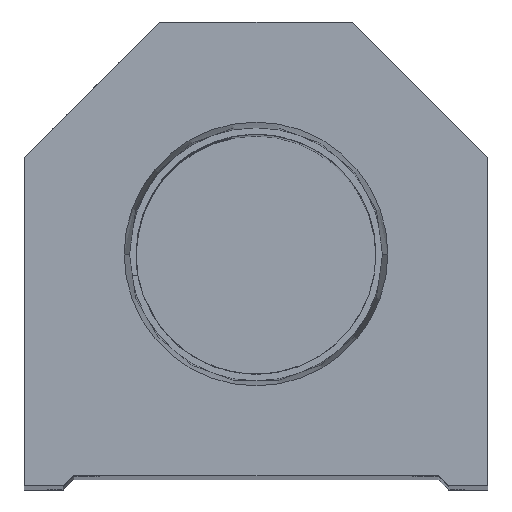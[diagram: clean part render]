
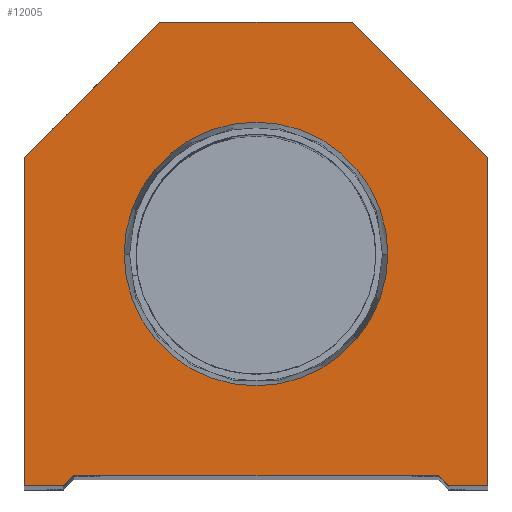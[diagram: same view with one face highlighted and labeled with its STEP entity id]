
A CAD part, top view. The second image highlights one B-rep face of the part: STEP entity #12005.
In plain terms, the highlighted planar face has unit normal (0, 0, 1).
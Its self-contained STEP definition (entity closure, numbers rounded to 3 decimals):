
#127 = VECTOR ( 'NONE', #19465, 1000. ) ;
#153 = AXIS2_PLACEMENT_3D ( 'NONE', #2557, #21612, #21268 ) ;
#337 = ORIENTED_EDGE ( 'NONE', *, *, #21010, .T. ) ;
#887 = LINE ( 'NONE', #14735, #4038 ) ;
#1731 = ORIENTED_EDGE ( 'NONE', *, *, #3122, .T. ) ;
#1844 = CARTESIAN_POINT ( 'NONE',  ( -9.25, 9.25, 0. ) ) ;
#2147 = EDGE_LOOP ( 'NONE', ( #10570, #5123, #5608, #22274, #337, #22479, #14865, #14385, #13648, #1731 ) ) ;
#2238 = DIRECTION ( 'NONE',  ( 0., 1., 0. ) ) ;
#2557 = CARTESIAN_POINT ( 'NONE',  ( 0., 22.25, 0. ) ) ;
#2828 = VERTEX_POINT ( 'NONE', #9703 ) ;
#2958 = EDGE_CURVE ( 'NONE', #9951, #19444, #7305, .T. ) ;
#3122 = EDGE_CURVE ( 'NONE', #10716, #21188, #4572, .T. ) ;
#3238 = EDGE_CURVE ( 'NONE', #4306, #22285, #887, .T. ) ;
#3522 = EDGE_LOOP ( 'NONE', ( #4177, #22457 ) ) ;
#4038 = VECTOR ( 'NONE', #7949, 1000. ) ;
#4177 = ORIENTED_EDGE ( 'NONE', *, *, #12944, .F. ) ;
#4306 = VERTEX_POINT ( 'NONE', #5188 ) ;
#4433 = CARTESIAN_POINT ( 'NONE',  ( -22.25, 31.5, 0. ) ) ;
#4572 = LINE ( 'NONE', #11137, #17413 ) ;
#4917 = DIRECTION ( 'NONE',  ( 0., 0., 1. ) ) ;
#5123 = ORIENTED_EDGE ( 'NONE', *, *, #9054, .T. ) ;
#5188 = CARTESIAN_POINT ( 'NONE',  ( 22.25, 31.5, 0. ) ) ;
#5515 = CARTESIAN_POINT ( 'NONE',  ( 9.25, 44.5, 0. ) ) ;
#5549 = EDGE_CURVE ( 'NONE', #22289, #10716, #19973, .T. ) ;
#5608 = ORIENTED_EDGE ( 'NONE', *, *, #2958, .T. ) ;
#5671 = CARTESIAN_POINT ( 'NONE',  ( 12.647, 22.25, 0. ) ) ;
#6589 = EDGE_CURVE ( 'NONE', #22285, #22289, #14042, .T. ) ;
#6605 = CARTESIAN_POINT ( 'NONE',  ( -12.647, 22.25, 0. ) ) ;
#7291 = EDGE_CURVE ( 'NONE', #9685, #13875, #12487, .T. ) ;
#7305 = LINE ( 'NONE', #16104, #9436 ) ;
#7949 = DIRECTION ( 'NONE',  ( -0.707, 0.707, 0. ) ) ;
#8094 = DIRECTION ( 'NONE',  ( 1., 0., 0. ) ) ;
#8306 = LINE ( 'NONE', #18753, #17775 ) ;
#8851 = CARTESIAN_POINT ( 'NONE',  ( -17.5, 0., 0. ) ) ;
#8857 = CARTESIAN_POINT ( 'NONE',  ( -9.25, 44.5, 0. ) ) ;
#8880 = DIRECTION ( 'NONE',  ( 1., 0., 0. ) ) ;
#8943 = VECTOR ( 'NONE', #9944, 1000. ) ;
#9054 = EDGE_CURVE ( 'NONE', #9585, #9951, #10487, .T. ) ;
#9290 = VERTEX_POINT ( 'NONE', #18862 ) ;
#9436 = VECTOR ( 'NONE', #8880, 1000. ) ;
#9585 = VERTEX_POINT ( 'NONE', #18043 ) ;
#9685 = VERTEX_POINT ( 'NONE', #6605 ) ;
#9703 = CARTESIAN_POINT ( 'NONE',  ( 18.5, 0., 0. ) ) ;
#9708 = CARTESIAN_POINT ( 'NONE',  ( 9.25, 9.25, 0. ) ) ;
#9944 = DIRECTION ( 'NONE',  ( 0.707, -0.707, 0. ) ) ;
#9951 = VERTEX_POINT ( 'NONE', #15618 ) ;
#10487 = LINE ( 'NONE', #1844, #14047 ) ;
#10570 = ORIENTED_EDGE ( 'NONE', *, *, #13826, .T. ) ;
#10716 = VERTEX_POINT ( 'NONE', #17994 ) ;
#10766 = EDGE_CURVE ( 'NONE', #19444, #2828, #11419, .T. ) ;
#10875 = CARTESIAN_POINT ( 'NONE',  ( 22.25, 0., 0. ) ) ;
#10879 = VECTOR ( 'NONE', #12368, 1000. ) ;
#11137 = CARTESIAN_POINT ( 'NONE',  ( -22.25, 0., 0. ) ) ;
#11357 = DIRECTION ( 'NONE',  ( 0., 0., 1. ) ) ;
#11419 = LINE ( 'NONE', #9708, #8943 ) ;
#11934 = CARTESIAN_POINT ( 'NONE',  ( 0., 0., 0. ) ) ;
#11966 = CARTESIAN_POINT ( 'NONE',  ( 17.5, 1., 0. ) ) ;
#12005 = ADVANCED_FACE ( 'NONE', ( #20236, #16684 ), #13317, .T. ) ;
#12368 = DIRECTION ( 'NONE',  ( 1., 0., 0. ) ) ;
#12487 = CIRCLE ( 'NONE', #153, 12.647 ) ;
#12852 = DIRECTION ( 'NONE',  ( 0.707, 0.707, 0. ) ) ;
#12944 = EDGE_CURVE ( 'NONE', #13875, #9685, #18468, .T. ) ;
#13066 = CARTESIAN_POINT ( 'NONE',  ( 0., 22.25, 0. ) ) ;
#13317 = PLANE ( 'NONE',  #19507 ) ;
#13648 = ORIENTED_EDGE ( 'NONE', *, *, #5549, .T. ) ;
#13826 = EDGE_CURVE ( 'NONE', #21188, #9585, #13990, .T. ) ;
#13875 = VERTEX_POINT ( 'NONE', #5671 ) ;
#13932 = VECTOR ( 'NONE', #2238, 1000. ) ;
#13990 = LINE ( 'NONE', #8851, #10879 ) ;
#14042 = LINE ( 'NONE', #5515, #127 ) ;
#14047 = VECTOR ( 'NONE', #12852, 1000. ) ;
#14385 = ORIENTED_EDGE ( 'NONE', *, *, #6589, .T. ) ;
#14735 = CARTESIAN_POINT ( 'NONE',  ( 22.25, 31.5, 0. ) ) ;
#14813 = LINE ( 'NONE', #10875, #13932 ) ;
#14865 = ORIENTED_EDGE ( 'NONE', *, *, #3238, .T. ) ;
#15336 = DIRECTION ( 'NONE',  ( 1., 0., 0. ) ) ;
#15618 = CARTESIAN_POINT ( 'NONE',  ( -17.5, 1., 0. ) ) ;
#16104 = CARTESIAN_POINT ( 'NONE',  ( -17.5, 1., 0. ) ) ;
#16204 = DIRECTION ( 'NONE',  ( 0., -1., 0. ) ) ;
#16633 = DIRECTION ( 'NONE',  ( -0.707, -0.707, 0. ) ) ;
#16684 = FACE_OUTER_BOUND ( 'NONE', #2147, .T. ) ;
#17413 = VECTOR ( 'NONE', #16204, 1000. ) ;
#17775 = VECTOR ( 'NONE', #8094, 1000. ) ;
#17994 = CARTESIAN_POINT ( 'NONE',  ( -22.25, 31.5, 0. ) ) ;
#18043 = CARTESIAN_POINT ( 'NONE',  ( -18.5, 0., 0. ) ) ;
#18091 = EDGE_CURVE ( 'NONE', #9290, #4306, #14813, .T. ) ;
#18293 = DIRECTION ( 'NONE',  ( 1., 0., 0. ) ) ;
#18468 = CIRCLE ( 'NONE', #21339, 12.647 ) ;
#18753 = CARTESIAN_POINT ( 'NONE',  ( 17.5, 0., 0. ) ) ;
#18862 = CARTESIAN_POINT ( 'NONE',  ( 22.25, 0., 0. ) ) ;
#19205 = CARTESIAN_POINT ( 'NONE',  ( 9.25, 44.5, 0. ) ) ;
#19312 = VECTOR ( 'NONE', #16633, 1000. ) ;
#19444 = VERTEX_POINT ( 'NONE', #11966 ) ;
#19465 = DIRECTION ( 'NONE',  ( -1., 0., 0. ) ) ;
#19507 = AXIS2_PLACEMENT_3D ( 'NONE', #11934, #4917, #15336 ) ;
#19973 = LINE ( 'NONE', #4433, #19312 ) ;
#20236 = FACE_BOUND ( 'NONE', #3522, .T. ) ;
#21010 = EDGE_CURVE ( 'NONE', #2828, #9290, #8306, .T. ) ;
#21188 = VERTEX_POINT ( 'NONE', #21649 ) ;
#21268 = DIRECTION ( 'NONE',  ( 1., 0., 0. ) ) ;
#21339 = AXIS2_PLACEMENT_3D ( 'NONE', #13066, #11357, #18293 ) ;
#21612 = DIRECTION ( 'NONE',  ( 0., 0., 1. ) ) ;
#21649 = CARTESIAN_POINT ( 'NONE',  ( -22.25, 0., 0. ) ) ;
#22274 = ORIENTED_EDGE ( 'NONE', *, *, #10766, .T. ) ;
#22285 = VERTEX_POINT ( 'NONE', #19205 ) ;
#22289 = VERTEX_POINT ( 'NONE', #8857 ) ;
#22457 = ORIENTED_EDGE ( 'NONE', *, *, #7291, .F. ) ;
#22479 = ORIENTED_EDGE ( 'NONE', *, *, #18091, .T. ) ;
